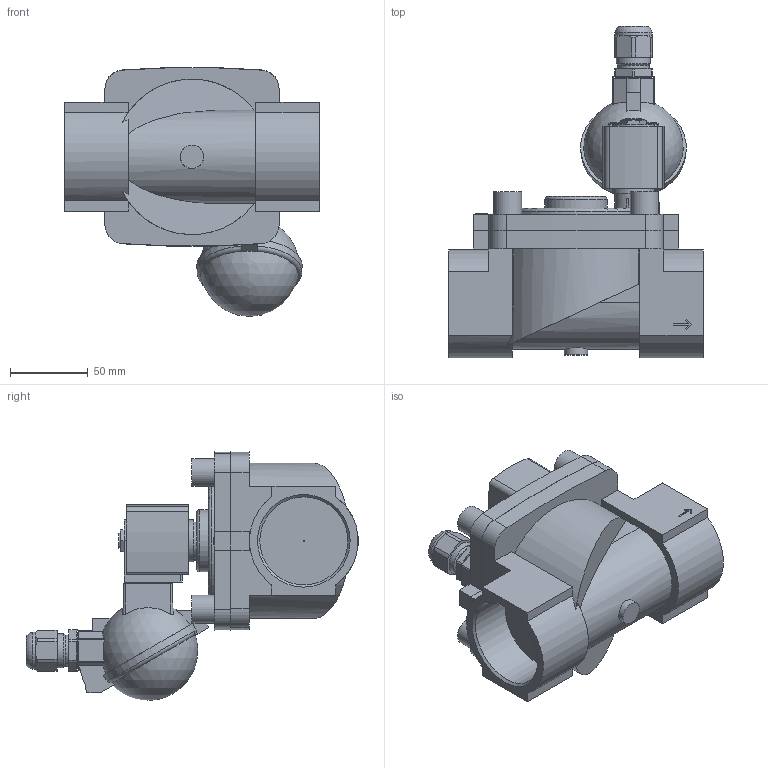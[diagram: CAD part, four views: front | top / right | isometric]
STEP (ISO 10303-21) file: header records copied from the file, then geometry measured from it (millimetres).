
FILE_DESCRIPTION(/* description */ ('STEP AP214'),/* implementation_level */ '2;1');
FILE_NAME(/* name */ '6281-384326-2_2-Way_Solenoid_Valve__Servo-assisted__General_Purpose',/* time_stamp */ '2024-09-06T14:27:09+02:00',/* author */ ('License CC BY-ND 4.0'),/* organization */ ('CADENAS'),/* preprocessor_version */ 'ST-DEVELOPER v19.3',/* originating_system */ 'PARTsolutions',/* authorisation */ ' ');
FILE_SCHEMA (('AUTOMOTIVE_DESIGN {1 0 10303 214 3 1 1}'));
Length unit declared in the file: millimetre
Products named in the file (4): 6281-384326-2/2-Way Solenoid Valve, Servo-assisted, General Purpose; 5281ev500MS2/2-Wege-Magnetventil mit Servomembran-Deckel 115 ; 5281ge-50 G2 MS; AC10ex-6ATEXKLK_MB05Plan-Coil
Assembly tree (3 placements, depth 2):
  6281-384326-2/2-Way Solenoid Valve, Servo-assisted, General Purpose
    5281ev500MS2/2-Wege-Magnetventil mit Servomembran-Deckel 115 
    5281ge-50 G2 MS
    AC10ex-6ATEXKLK_MB05Plan-Coil
Bounding box: 164 x 213.67 x 160.16 mm (x, y, z)
Volume: 1172150.5 mm3; surface area: 149100.5 mm2
Topology: 3 solids, 3 shells, 292 faces, 778 edges, 514 vertices
Faces by surface type: plane 178, cylinder 84, cone 21, torus 5, sphere 4
Full cylindrical faces by diameter (mm): 1 x1, 3.242 x1, 9.74 x1, 14 x1, 15 x1, 17.294 x1, 18 x4, 20 x1, 22 x1, 23 x1, 24 x1, 27 x2, 40 x1, 56.656 x2
Entity records: 10590 total; most frequent: CARTESIAN_POINT 1723, DIRECTION 1528, ORIENTED_EDGE 1472, EDGE_CURVE 736, AXIS2_PLACEMENT_3D 544, VERTEX_POINT 500, LINE 440, VECTOR 440
